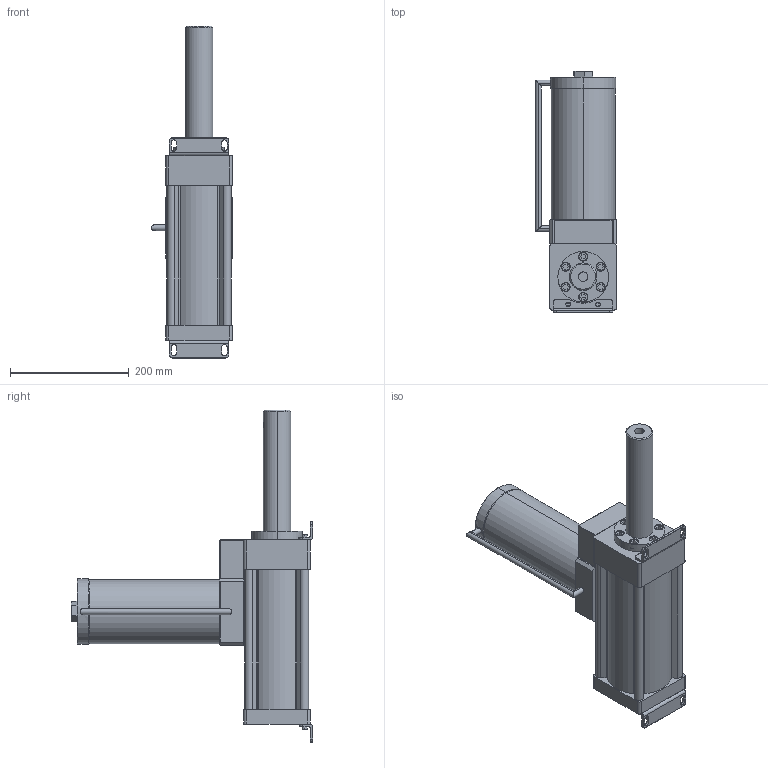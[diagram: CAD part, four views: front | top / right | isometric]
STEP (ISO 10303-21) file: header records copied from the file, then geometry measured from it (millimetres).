
FILE_DESCRIPTION (( 'STEP AP203' ), '1' );
FILE_NAME ('MHB-1011N120+YT63YT80YT100YT125.STEP', '2016-03-19T03:48:16', ( 'WIN' ), ( '' ), 'SwSTEP 2.0', 'SolidWorks 2014', '' );
FILE_SCHEMA (( 'CONFIG_CONTROL_DESIGN' ));
Length unit declared in the file: millimetre
Products named in the file (1): MHB-1011N120+YT63YT80YT100YT125
Bounding box: 136.08 x 406 x 558 mm (x, y, z)
Volume: 3118217 mm3; surface area: 576608.5 mm2
Topology: 1 solids, 7 shells, 389 faces, 955 edges, 620 vertices
Faces by surface type: plane 248, cylinder 135, torus 4, cone 2
Entity records: 11731 total; most frequent: CARTESIAN_POINT 2271, DIRECTION 1976, ORIENTED_EDGE 1910, EDGE_CURVE 955, AXIS2_PLACEMENT_3D 665, VECTOR 646, LINE 646, VERTEX_POINT 620
